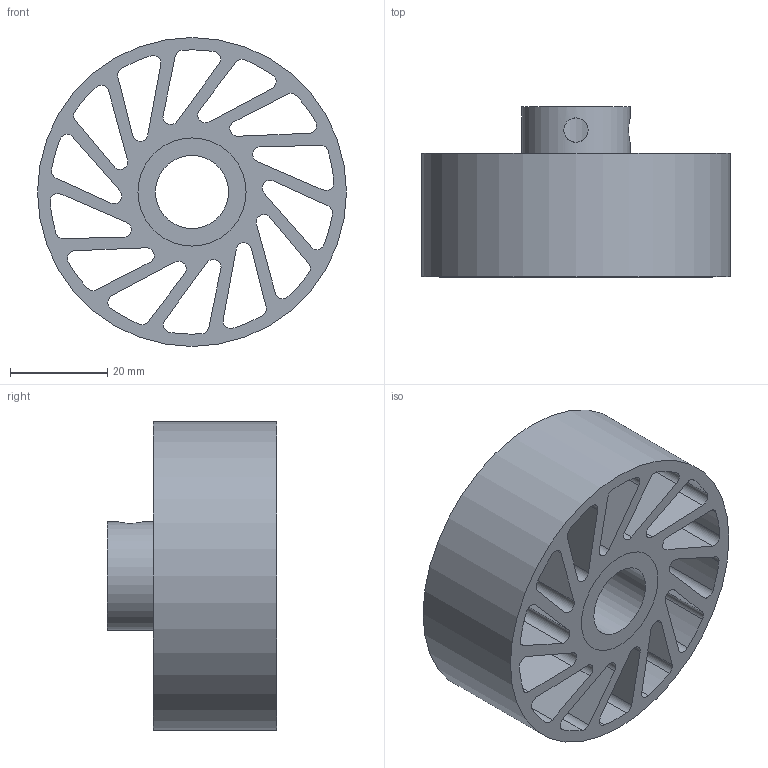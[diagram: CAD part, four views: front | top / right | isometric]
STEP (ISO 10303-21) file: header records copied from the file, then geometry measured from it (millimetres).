
FILE_DESCRIPTION(/* description */ (''),/* implementation_level */ '2;1');
FILE_NAME(/* name */ 'NCWM-330-XXX-YYY.stp',/* time_stamp */ '2023-02-02T16:04:57-06:00',/* author */ ('AG'),/* organization */ ('Meridian Laboratory'),/* preprocessor_version */ 'ST-DEVELOPER v18.1',/* originating_system */ 'Autodesk Inventor 2022',/* authorisation */ '');
FILE_SCHEMA (('AUTOMOTIVE_DESIGN { 1 0 10303 214 3 1 1 }'));
Length unit declared in the file: millimetre
Products named in the file (1): NCWM-300
Bounding box: 63.5 x 34.92 x 63.5 mm (x, y, z)
Volume: 42464.4 mm3; surface area: 29536.1 mm2
Topology: 2 solids, 2 shells, 94 faces, 276 edges, 186 vertices
Faces by surface type: cylinder 62, plane 32
Full cylindrical faces by diameter (mm): 5 x2, 15.025 x1, 22.225 x2, 63.5 x1
Entity records: 3536 total; most frequent: CARTESIAN_POINT 697, DIRECTION 576, ORIENTED_EDGE 552, EDGE_CURVE 276, AXIS2_PLACEMENT_3D 215, VERTEX_POINT 186, LINE 146, VECTOR 146
